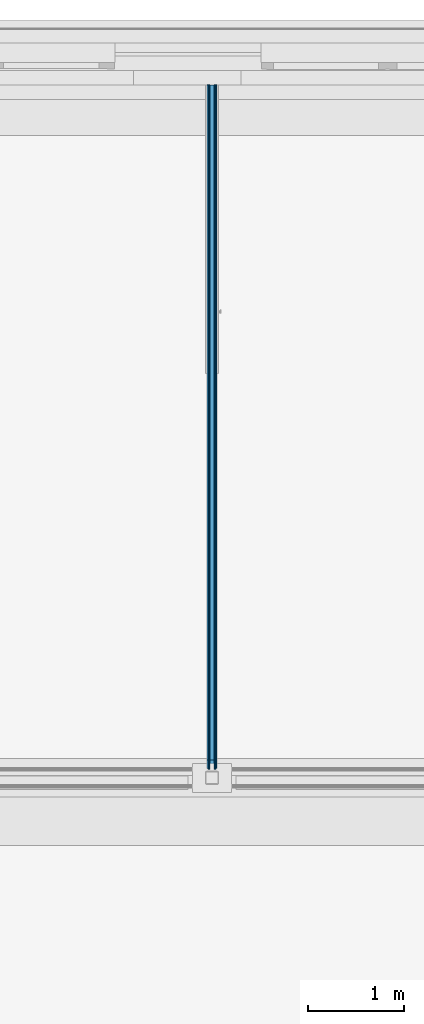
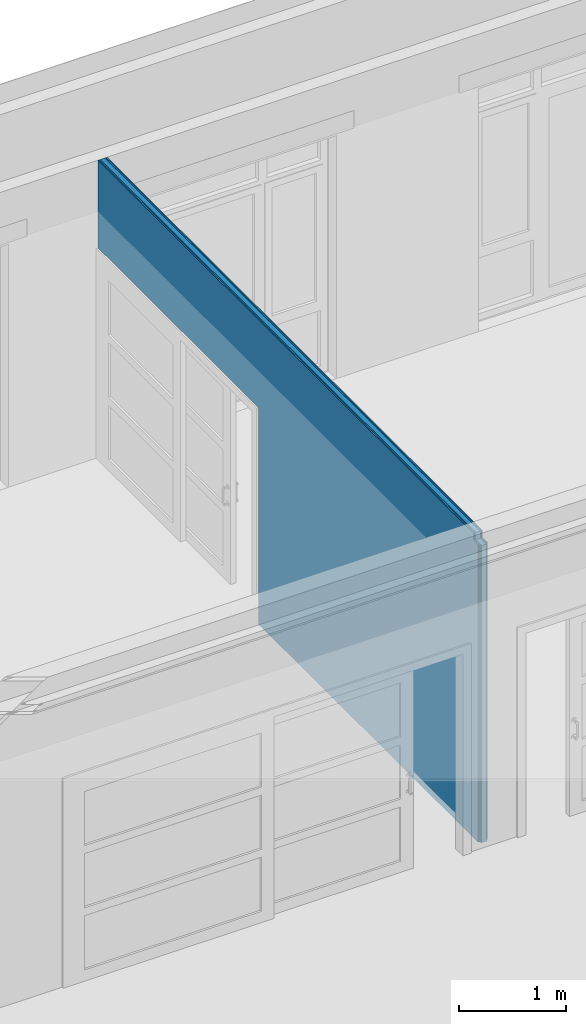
# One storey, part 396 of 788: 5 building element parts, 1 opening, 1 element without a shape of its own.
"""IFC2X3 building model written with IfcOpenShell, lengths in millimetres."""

from ifc_helpers import new_model, entity, si_unit, converted_unit, derived_unit, money_unit, direction, frame, origin_with_axes, place, context, subcontext, project, spatial, faceted_brep, material, type_object, element, aggregate, save


model = new_model("IFC2X3")

# Units and contexts
model_context = context("Model", 3, precision=0.01, world=origin_with_axes(), true_north=direction((0.0, 1.0)))
plan_context = context("Plan", 3, precision=0.01, world=origin_with_axes(), true_north=direction((0.0, 1.0)))
body_context = subcontext(model_context, "Body", "Model", "MODEL_VIEW")
ifc_project = project(units=[si_unit("LENGTHUNIT", "METRE", prefix="MILLI"), si_unit("AREAUNIT", "SQUARE_METRE"), si_unit("VOLUMEUNIT", "CUBIC_METRE"), converted_unit("PLANEANGLEUNIT", "DEGREE", entity("IfcPlaneAngleMeasure", 0.0174532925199), si_unit("PLANEANGLEUNIT", "RADIAN"), dimensions=[0, 0, 0, 0, 0, 0, 0]), money_unit("EUR"), converted_unit("TIMEUNIT", "Year", entity("IfcTimeMeasure", 31556926.0), si_unit("TIMEUNIT", "SECOND"), dimensions=[0, 0, 1, 0, 0, 0, 0]), si_unit("MASSUNIT", "GRAM", prefix="KILO"), si_unit("THERMODYNAMICTEMPERATUREUNIT", "DEGREE_CELSIUS"), si_unit("LUMINOUSINTENSITYUNIT", "LUMEN"), si_unit("ENERGYUNIT", "JOULE", prefix="MEGA"), derived_unit("THERMALCONDUCTANCEUNIT", [(si_unit("POWERUNIT", "WATT"), 1), (si_unit("LENGTHUNIT", "METRE"), -1), (si_unit("THERMODYNAMICTEMPERATUREUNIT", "KELVIN"), -1)]), derived_unit("SPECIFICHEATCAPACITYUNIT", [(si_unit("ENERGYUNIT", "JOULE"), 1), (si_unit("MASSUNIT", "GRAM", prefix="KILO"), -1), (si_unit("THERMODYNAMICTEMPERATUREUNIT", "KELVIN"), -1)]), derived_unit("MASSDENSITYUNIT", [(si_unit("MASSUNIT", "GRAM", prefix="KILO"), 1), (si_unit("VOLUMEUNIT", "CUBIC_METRE"), -1)])], contexts=[model_context, plan_context])

# Site, building, storey
site_placement = place(None, origin_with_axes())
site = spatial("IfcSite", under=ifc_project, at=site_placement, Name="Site", CompositionType="ELEMENT")
building_placement = place(site_placement, origin_with_axes())
building = spatial("IfcBuilding", under=site, at=building_placement, Name="Naam gebouw", CompositionType="ELEMENT")
storey_placement = place(building_placement, origin_with_axes())
storey = spatial("IfcBuildingStorey", under=building, at=storey_placement, Name="Begane grond", CompositionType="ELEMENT", Elevation=0.0)

# Wall, opening, building element parts
wall_type = type_object("IfcWallType", Name="22 Metalstud 100mm 100", PredefinedType="ELEMENTEDWALL")
wall_placement = place(storey_placement, frame((18378.9828621, 27979.9913222, -70.0), z_axis=(0.0, 0.0, 1.0), x_axis=(0.0, 1.0, 0.0)))
wall = element("IfcWall", 1, at=wall_placement, inside=storey, type_object=wall_type, Name="Binnenwand")
opening_placement = place(wall_placement, frame((5700.0017549, 0.0, 70.0), z_axis=(0.0, 0.0, 1.0), x_axis=(1.0, 0.0, 0.0)))
element("IfcOpeningElement", 2, at=opening_placement, cuts=wall, Name="s.02", context=body_context, shape_type="Brep", body=[
    faceted_brep([(1500.0, -100.0, 2400.0), (1500.0, -100.0, 0.0), (1500.0, 219.5, 0.0), (1500.0, 219.5, 2400.0), (-1500.0, -100.0, 2400.0), (-1500.0, -100.0, 0.0), (-1500.0, 219.5, 0.0), (-1500.0, 219.5, 2400.0)], [[[0, 1, 2, 3]], [[0, 4, 5, 1]], [[1, 5, 6, 2]], [[3, 2, 6, 7]], [[4, 0, 3, 7]], [[5, 4, 7, 6]]]),
])
ifc_material_1 = material(Name="Gipsplaat")
building_element_part_1_placement = place(wall_placement, origin_with_axes())
building_element_part_1 = element("IfcBuildingElementPart", 3, at=building_element_part_1_placement, material=ifc_material_1, Name="Gipsplaat", context=body_context, shape_type="Brep", body=[
    faceted_brep([(4200.0017549, 37.5, 70.0), (4200.0017549, 37.5, 2470.0), (7200.0017549, 37.5, 2470.0), (7200.0017549, 37.5, 3470.0), (187.000000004, 37.5, 3470.0), (187.000000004, 37.5, 3390.0), (100.0, 37.5, 3390.0), (100.0, 37.5, 0.0), (4200.0017549, 37.5, 0.0), (4200.0017549, 50.0, 70.0), (4200.0017549, 50.0, 2470.0), (7200.0017549, 50.0, 2470.0), (7200.0017549, 50.0, 3470.0), (187.000000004, 50.0, 3470.0), (187.000000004, 50.0, 3390.0), (100.0, 50.0, 3390.0), (100.0, 50.0, 0.0), (4200.0017549, 50.0, 0.0)], [[[0, 1, 2, 3, 4, 5, 6, 7, 8]], [[1, 0, 9, 10]], [[11, 2, 1, 10]], [[2, 11, 12, 3]], [[4, 3, 12, 13]], [[13, 14, 5, 4]], [[5, 14, 15, 6]], [[15, 16, 7, 6]], [[17, 8, 7, 16]], [[9, 0, 8, 17]], [[10, 9, 17, 16, 15, 14, 13, 12, 11]]]),
])
building_element_part_2_placement = place(wall_placement, origin_with_axes())
building_element_part_2 = element("IfcBuildingElementPart", 4, at=building_element_part_2_placement, material=ifc_material_1, Name="Gipsplaat", context=body_context, shape_type="Brep", body=[
    faceted_brep([(4200.0017549, 25.0, 70.0), (4200.0017549, 25.0, 2470.0), (7200.0017549, 25.0, 2470.0), (7200.0017549, 25.0, 3470.0), (187.000000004, 25.0, 3470.0), (187.000000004, 25.0, 3390.0), (87.5, 25.0, 3390.0), (87.5, 25.0, 0.0), (4200.0017549, 25.0, 0.0), (4200.0017549, 37.5, 70.0), (4200.0017549, 37.5, 2470.0), (7200.0017549, 37.5, 2470.0), (7200.0017549, 37.5, 3470.0), (187.000000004, 37.5, 3470.0), (187.000000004, 37.5, 3390.0), (87.5, 37.5, 3390.0), (87.5, 37.5, 0.0), (4200.0017549, 37.5, 0.0)], [[[0, 1, 2, 3, 4, 5, 6, 7, 8]], [[1, 0, 9, 10]], [[11, 2, 1, 10]], [[2, 11, 12, 3]], [[4, 3, 12, 13]], [[13, 14, 5, 4]], [[5, 14, 15, 6]], [[15, 16, 7, 6]], [[17, 8, 7, 16]], [[9, 0, 8, 17]], [[10, 9, 17, 16, 15, 14, 13, 12, 11]]]),
])
ifc_material_2 = material(Name="Isolatie - Steenwol LSW")
building_element_part_3_placement = place(wall_placement, origin_with_axes())
building_element_part_3 = element("IfcBuildingElementPart", 5, at=building_element_part_3_placement, material=ifc_material_2, Name="Isolatie - Steenwol LSW", context=body_context, shape_type="Brep", body=[
    faceted_brep([(4200.0017549, -25.0, 70.0), (4200.0017549, -25.0, 2470.0), (7200.0017549, -25.0, 2470.0), (7200.0017549, -25.0, 3470.0), (187.000000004, -25.0, 3470.0), (187.000000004, -25.0, 3390.0), (75.0, -25.0, 3390.0), (75.0, -25.0, 0.0), (4200.0017549, -25.0, 0.0), (4200.0017549, 25.0, 70.0), (4200.0017549, 25.0, 2470.0), (7200.0017549, 25.0, 2470.0), (7200.0017549, 25.0, 3470.0), (187.000000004, 25.0, 3470.0), (187.000000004, 25.0, 3390.0), (75.0, 25.0, 3390.0), (75.0, 25.0, 0.0), (4200.0017549, 25.0, 0.0)], [[[0, 1, 2, 3, 4, 5, 6, 7, 8]], [[1, 0, 9, 10]], [[11, 2, 1, 10]], [[2, 11, 12, 3]], [[4, 3, 12, 13]], [[13, 14, 5, 4]], [[5, 14, 15, 6]], [[15, 16, 7, 6]], [[17, 8, 7, 16]], [[9, 0, 8, 17]], [[10, 9, 17, 16, 15, 14, 13, 12, 11]]]),
])
building_element_part_4_placement = place(wall_placement, origin_with_axes())
building_element_part_4 = element("IfcBuildingElementPart", 6, at=building_element_part_4_placement, material=ifc_material_1, Name="Gipsplaat", context=body_context, shape_type="Brep", body=[
    faceted_brep([(4200.0017549, -37.5, 70.0), (4200.0017549, -37.5, 2470.0), (7200.0017549, -37.5, 2470.0), (7200.0017549, -37.5, 3470.0), (187.000000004, -37.5, 3470.0), (187.000000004, -37.5, 3390.0), (87.5, -37.5, 3390.0), (87.5, -37.5, 0.0), (4200.0017549, -37.5, 0.0), (4200.0017549, -25.0, 70.0), (4200.0017549, -25.0, 2470.0), (7200.0017549, -25.0, 2470.0), (7200.0017549, -25.0, 3470.0), (187.000000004, -25.0, 3470.0), (187.000000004, -25.0, 3390.0), (87.5, -25.0, 3390.0), (87.5, -25.0, 0.0), (4200.0017549, -25.0, 0.0)], [[[0, 1, 2, 3, 4, 5, 6, 7, 8]], [[1, 0, 9, 10]], [[11, 2, 1, 10]], [[2, 11, 12, 3]], [[4, 3, 12, 13]], [[13, 14, 5, 4]], [[5, 14, 15, 6]], [[15, 16, 7, 6]], [[17, 8, 7, 16]], [[9, 0, 8, 17]], [[10, 9, 17, 16, 15, 14, 13, 12, 11]]]),
])
building_element_part_5_placement = place(wall_placement, origin_with_axes())
building_element_part_5 = element("IfcBuildingElementPart", 7, at=building_element_part_5_placement, material=ifc_material_1, Name="Gipsplaat", context=body_context, shape_type="Brep", body=[
    faceted_brep([(4200.0017549, -50.0, 70.0), (4200.0017549, -50.0, 2470.0), (7200.0017549, -50.0, 2470.0), (7200.0017549, -50.0, 3470.0), (187.000000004, -50.0, 3470.0), (187.000000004, -50.0, 3390.0), (100.0, -50.0, 3390.0), (100.0, -50.0, 0.0), (4200.0017549, -50.0, 0.0), (4200.0017549, -37.5, 70.0), (4200.0017549, -37.5, 2470.0), (7200.0017549, -37.5, 2470.0), (7200.0017549, -37.5, 3470.0), (187.000000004, -37.5, 3470.0), (187.000000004, -37.5, 3390.0), (100.0, -37.5, 3390.0), (100.0, -37.5, 0.0), (4200.0017549, -37.5, 0.0)], [[[0, 1, 2, 3, 4, 5, 6, 7, 8]], [[1, 0, 9, 10]], [[11, 2, 1, 10]], [[2, 11, 12, 3]], [[4, 3, 12, 13]], [[13, 14, 5, 4]], [[5, 14, 15, 6]], [[15, 16, 7, 6]], [[17, 8, 7, 16]], [[9, 0, 8, 17]], [[10, 9, 17, 16, 15, 14, 13, 12, 11]]]),
])
aggregate(wall, [building_element_part_1, building_element_part_2, building_element_part_3, building_element_part_4, building_element_part_5])

save(model, "model.ifc")
